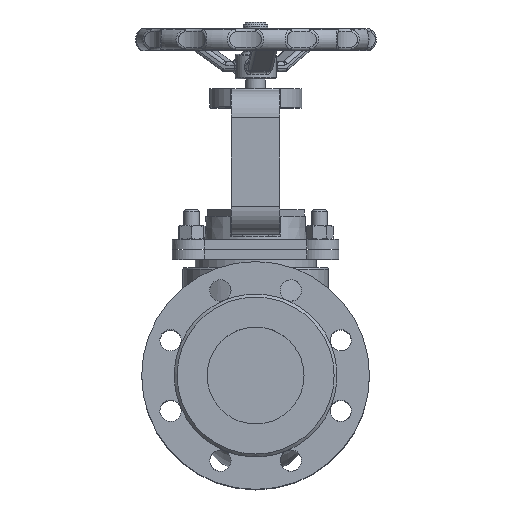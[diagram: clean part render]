
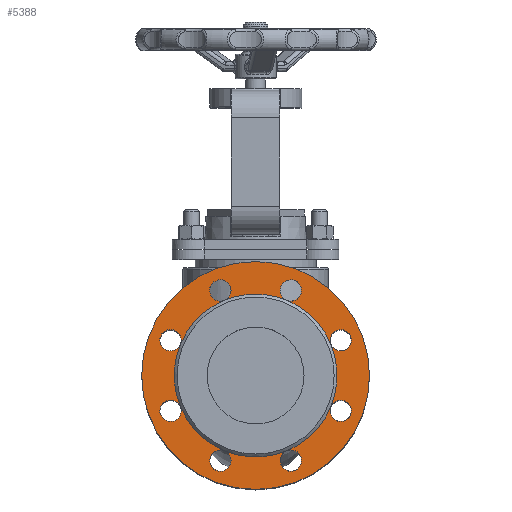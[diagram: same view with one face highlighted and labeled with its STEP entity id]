
A CAD part, top view. The second image highlights one B-rep face of the part: STEP entity #5388.
In plain terms, the highlighted planar face has unit normal (0, 0, 1).
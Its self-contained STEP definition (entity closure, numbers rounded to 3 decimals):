
#5388=ADVANCED_FACE('',(#13557,#13559,#13561,#13563,#13565,#13567,#13569,#13571,
#13573,#13575),#13577,.F.);
#13557=FACE_BOUND('',#13558,.T.);
#13558=EDGE_LOOP('',(#20560));
#13559=FACE_BOUND('',#13560,.T.);
#13560=EDGE_LOOP('',(#20561));
#13561=FACE_BOUND('',#13562,.T.);
#13562=EDGE_LOOP('',(#20562));
#13563=FACE_BOUND('',#13564,.T.);
#13564=EDGE_LOOP('',(#20563));
#13565=FACE_BOUND('',#13566,.T.);
#13566=EDGE_LOOP('',(#20564));
#13567=FACE_BOUND('',#13568,.T.);
#13568=EDGE_LOOP('',(#20565));
#13569=FACE_BOUND('',#13570,.T.);
#13570=EDGE_LOOP('',(#20566));
#13571=FACE_BOUND('',#13572,.T.);
#13572=EDGE_LOOP('',(#20567));
#13573=FACE_BOUND('',#13574,.T.);
#13574=EDGE_LOOP('',(#20568));
#13575=FACE_BOUND('',#13576,.T.);
#13576=EDGE_LOOP('',(#20569));
#13577=PLANE('',#13578);
#13578=AXIS2_PLACEMENT_3D('',#13579,#13580,#13581);
#13579=CARTESIAN_POINT('',(0.,0.,172.));
#13580=DIRECTION('',(0.,0.,-1.));
#13581=DIRECTION('',(0.,1.,0.));
#20560=ORIENTED_EDGE('',*,*,#23761,.T.);
#20561=ORIENTED_EDGE('',*,*,#23917,.F.);
#20562=ORIENTED_EDGE('',*,*,#23769,.T.);
#20563=ORIENTED_EDGE('',*,*,#23768,.T.);
#20564=ORIENTED_EDGE('',*,*,#23767,.T.);
#20565=ORIENTED_EDGE('',*,*,#23766,.T.);
#20566=ORIENTED_EDGE('',*,*,#23765,.T.);
#20567=ORIENTED_EDGE('',*,*,#23764,.T.);
#20568=ORIENTED_EDGE('',*,*,#23763,.T.);
#20569=ORIENTED_EDGE('',*,*,#23762,.T.);
#23761=EDGE_CURVE('',#27115,#27115,#27116,.T.);
#23762=EDGE_CURVE('',#27117,#27117,#27118,.T.);
#23763=EDGE_CURVE('',#27119,#27119,#27120,.T.);
#23764=EDGE_CURVE('',#27121,#27121,#27122,.T.);
#23765=EDGE_CURVE('',#27123,#27123,#27124,.T.);
#23766=EDGE_CURVE('',#27125,#27125,#27126,.T.);
#23767=EDGE_CURVE('',#27127,#27127,#27128,.T.);
#23768=EDGE_CURVE('',#27129,#27129,#27130,.T.);
#23769=EDGE_CURVE('',#27131,#27131,#27132,.T.);
#23917=EDGE_CURVE('',#27350,#27350,#27351,.T.);
#27115=VERTEX_POINT('',#56756);
#27116=CIRCLE('',#56757,117.5);
#27117=VERTEX_POINT('',#56761);
#27118=CIRCLE('',#56762,11.);
#27119=VERTEX_POINT('',#56766);
#27120=CIRCLE('',#56767,11.);
#27121=VERTEX_POINT('',#56771);
#27122=CIRCLE('',#56772,11.);
#27123=VERTEX_POINT('',#56776);
#27124=CIRCLE('',#56777,11.);
#27125=VERTEX_POINT('',#56781);
#27126=CIRCLE('',#56782,11.);
#27127=VERTEX_POINT('',#56786);
#27128=CIRCLE('',#56787,11.);
#27129=VERTEX_POINT('',#56791);
#27130=CIRCLE('',#56792,11.);
#27131=VERTEX_POINT('',#56796);
#27132=CIRCLE('',#56797,11.);
#27350=VERTEX_POINT('',#60286);
#27351=CIRCLE('',#60287,84.);
#56756=CARTESIAN_POINT('',(0.,117.5,172.));
#56757=AXIS2_PLACEMENT_3D('',#56758,#56759,#56760);
#56758=CARTESIAN_POINT('',(0.,0.,172.));
#56759=DIRECTION('',(0.,0.,1.));
#56760=DIRECTION('',(0.,1.,0.));
#56761=CARTESIAN_POINT('',(79.99,44.133,172.));
#56762=AXIS2_PLACEMENT_3D('',#56763,#56764,#56765);
#56763=CARTESIAN_POINT('',(87.769,36.355,172.));
#56764=DIRECTION('',(0.,0.,-1.));
#56765=DIRECTION('',(-0.707,0.707,0.));
#56766=CARTESIAN_POINT('',(44.133,-79.99,172.));
#56767=AXIS2_PLACEMENT_3D('',#56768,#56769,#56770);
#56768=CARTESIAN_POINT('',(36.355,-87.769,172.));
#56769=DIRECTION('',(0.,0.,-1.));
#56770=DIRECTION('',(0.707,0.707,0.));
#56771=CARTESIAN_POINT('',(-79.99,-44.133,172.));
#56772=AXIS2_PLACEMENT_3D('',#56773,#56774,#56775);
#56773=CARTESIAN_POINT('',(-87.769,-36.355,172.));
#56774=DIRECTION('',(0.,0.,-1.));
#56775=DIRECTION('',(0.707,-0.707,0.));
#56776=CARTESIAN_POINT('',(-44.133,79.99,172.));
#56777=AXIS2_PLACEMENT_3D('',#56778,#56779,#56780);
#56778=CARTESIAN_POINT('',(-36.355,87.769,172.));
#56779=DIRECTION('',(0.,0.,-1.));
#56780=DIRECTION('',(-0.707,-0.707,0.));
#56781=CARTESIAN_POINT('',(25.355,87.769,172.));
#56782=AXIS2_PLACEMENT_3D('',#56783,#56784,#56785);
#56783=CARTESIAN_POINT('',(36.355,87.769,172.));
#56784=DIRECTION('',(0.,0.,-1.));
#56785=DIRECTION('',(-1.,0.,0.));
#56786=CARTESIAN_POINT('',(-87.769,25.355,172.));
#56787=AXIS2_PLACEMENT_3D('',#56788,#56789,#56790);
#56788=CARTESIAN_POINT('',(-87.769,36.355,172.));
#56789=DIRECTION('',(0.,0.,-1.));
#56790=DIRECTION('',(0.,-1.,0.));
#56791=CARTESIAN_POINT('',(-25.355,-87.769,172.));
#56792=AXIS2_PLACEMENT_3D('',#56793,#56794,#56795);
#56793=CARTESIAN_POINT('',(-36.355,-87.769,172.));
#56794=DIRECTION('',(0.,0.,-1.));
#56795=DIRECTION('',(1.,0.,0.));
#56796=CARTESIAN_POINT('',(87.769,-25.355,172.));
#56797=AXIS2_PLACEMENT_3D('',#56798,#56799,#56800);
#56798=CARTESIAN_POINT('',(87.769,-36.355,172.));
#56799=DIRECTION('',(0.,0.,-1.));
#56800=DIRECTION('',(0.,1.,0.));
#60286=CARTESIAN_POINT('',(0.,84.,172.));
#60287=AXIS2_PLACEMENT_3D('',#60288,#60289,#60290);
#60288=CARTESIAN_POINT('',(0.,0.,172.));
#60289=DIRECTION('',(0.,0.,1.));
#60290=DIRECTION('',(0.,1.,0.));
